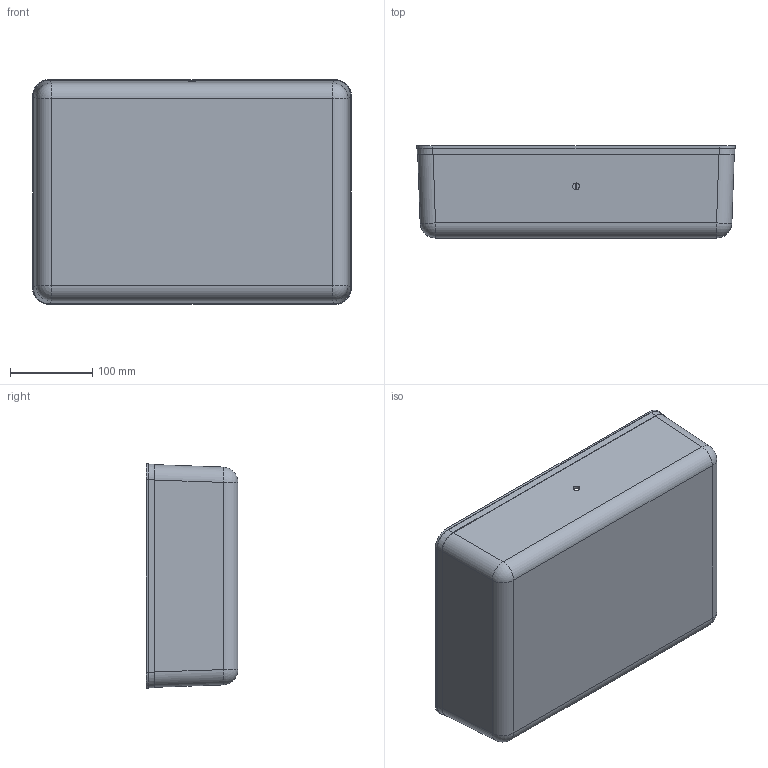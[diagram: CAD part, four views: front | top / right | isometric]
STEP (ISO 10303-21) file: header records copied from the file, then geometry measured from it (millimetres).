
FILE_DESCRIPTION (( 'STEP AP214' ), '1' );
FILE_NAME ('1450 Peli Case Bottom.STEP', '2016-01-11T01:47:33', ( '' ), ( '' ), 'SwSTEP 2.0', 'SolidWorks 2014', '' );
FILE_SCHEMA (( 'AUTOMOTIVE_DESIGN' ));
Length unit declared in the file: inch
Products named in the file (1): 1450 Peli Case Bottom
Bounding box: 388 x 111.76 x 273.7 mm (x, y, z)
Volume: 642109 mm3; surface area: 463188.2 mm2
Topology: 1 solids, 1 shells, 103 faces, 246 edges, 156 vertices
Faces by surface type: plane 41, cone 24, cylinder 16, bspline 14, sphere 8
Entity records: 5776 total; most frequent: CARTESIAN_POINT 3574, ORIENTED_EDGE 476, DIRECTION 386, EDGE_CURVE 238, VERTEX_POINT 156, AXIS2_PLACEMENT_3D 138, EDGE_LOOP 124, LINE 110
